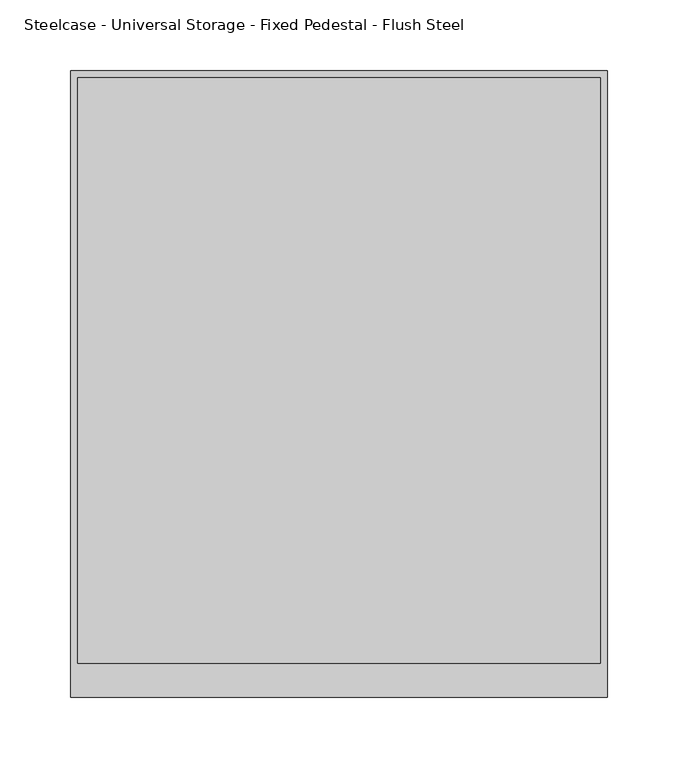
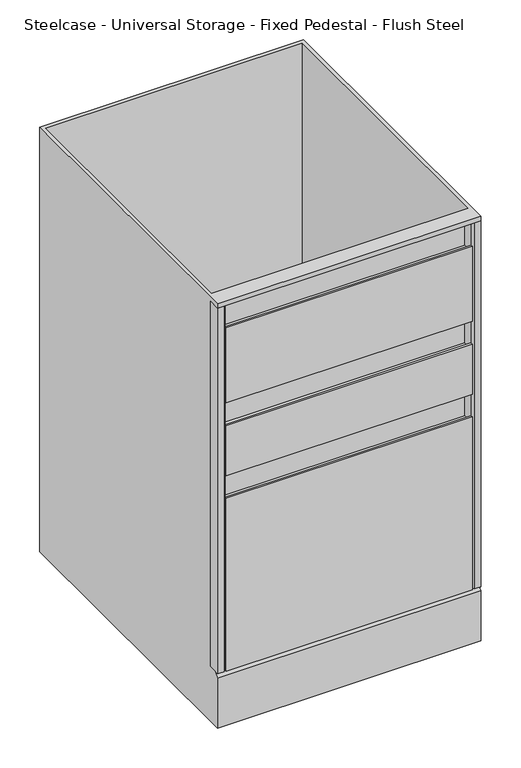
"""IFC4 building model written with IfcOpenShell, lengths in millimetres: furniture geometry, Steelcase - Universal Storage - Fixed Pedestal - Flush Steel : 2 Box/1 File - 25 1/2H x 17 1/2D."""

import ifcopenshell
import ifcopenshell.guid

model = None  # the IFC model being written
_history = None  # IfcOwnerHistory: only IFC2X3 demands one
_inside = {}  # id of a spatial element -> (the spatial element, [elements in it])
_under = {}  # id of a project, library or spatial element -> (it, [spatial elements below it])
_declared = {}  # id of a project -> (the project, [libraries it declares])
_typed = {}  # id of a type object -> (the type object, [elements of that type])
_made_of = {}  # id of a material, layer set ... -> (it, [elements and type objects made of it])


def new_model(schema):
    """Start an empty IFC model of exactly this schema.

    Asked for "IFC4X3", IfcOpenShell would pick the latest addendum, in which some entities
    have other attributes; the version numbers below select the first issue.
    IFC2X3 requires an IfcOwnerHistory on every rooted entity: one is made here for all.
    """
    global model, _history
    if schema == "IFC4X3":
        model = ifcopenshell.file(schema_version=(4, 3, 0, 0))
    else:
        model = ifcopenshell.file(schema=schema)
    _inside.clear()
    _under.clear()
    _declared.clear()
    _typed.clear()
    _made_of.clear()
    _history = None
    if model.schema == "IFC2X3":
        org = make("IfcOrganization", Name="unknown")
        user = make(
            "IfcPersonAndOrganization",
            ThePerson=make("IfcPerson", FamilyName="unknown"),
            TheOrganization=org,
        )
        app = make(
            "IfcApplication",
            ApplicationDeveloper=org,
            Version="unknown",
            ApplicationFullName="unknown",
            ApplicationIdentifier="unknown",
        )
        _history = make(
            "IfcOwnerHistory",
            OwningUser=user,
            OwningApplication=app,
            ChangeAction="ADDED",
            CreationDate=0,
        )
    return model


def make(cls, **values):
    """One entity of the class cls with the attributes given. An attribute that is None is left unset."""
    return model.create_entity(
        cls, **{name: value for name, value in values.items() if value is not None}
    )


def rooted(cls, **values):
    """An entity with a GlobalId (a new one), such as an element, a storey or a relation."""
    return make(cls, GlobalId=ifcopenshell.guid.new(), OwnerHistory=_history, **values)


def si_unit(unit_type, name, prefix=None):
    """IfcSIUnit, for example si_unit("LENGTHUNIT", "METRE", prefix="MILLI")."""
    return make("IfcSIUnit", UnitType=unit_type, Prefix=prefix, Name=name)


def assignment(units):
    """IfcUnitAssignment: the units of a project."""
    return None if units is None else make("IfcUnitAssignment", Units=units)


def point(xyz):
    """IfcCartesianPoint."""
    return None if xyz is None else make("IfcCartesianPoint", Coordinates=xyz)


def direction(xyz):
    """IfcDirection."""
    return None if xyz is None else make("IfcDirection", DirectionRatios=xyz)


def frame(location, z_axis=None, x_axis=None):
    """IfcAxis2Placement3D, a coordinate frame: its origin and axes. An axis left out is left unset."""
    return make(
        "IfcAxis2Placement3D",
        Location=point(location),
        Axis=direction(z_axis),
        RefDirection=direction(x_axis),
    )


def origin():
    """The frame at (0, 0, 0) with its axes left unset."""
    return frame((0.0, 0.0, 0.0))


def place(relative_to, where):
    """IfcLocalPlacement: puts the frame where relative to a parent placement (None: the world)."""
    return make(
        "IfcLocalPlacement", PlacementRelTo=relative_to, RelativePlacement=where
    )


def context(
    kind, dimensions, precision=None, world=None, true_north=None, identifier=None
):
    """IfcGeometricRepresentationContext, for example the 3D "Model" context."""
    return make(
        "IfcGeometricRepresentationContext",
        ContextIdentifier=identifier,
        ContextType=kind,
        CoordinateSpaceDimension=dimensions,
        Precision=precision,
        WorldCoordinateSystem=world,
        TrueNorth=true_north,
    )


def project(units=None, contexts=None):
    """IfcProject with its units and contexts."""
    return rooted(
        "IfcProject",
        Name="project",
        RepresentationContexts=contexts,
        UnitsInContext=assignment(units),
    )


def spatial(cls, under=None, at=None, **own):
    """A site, building, storey or space (cls), placed at a placement, below another one or the project."""
    s = rooted(cls, ObjectPlacement=at, **own)
    if under is not None:
        _under.setdefault(under.id(), (under, []))[1].append(s)
    return s


def polyline(points):
    """IfcPolyline through the points."""
    return make("IfcPolyline", Points=[point(p) for p in points])


def outline(outer, holes=None, kind="AREA"):
    """IfcArbitraryClosedProfileDef: a profile drawn as a closed curve; with holes, ...WithVoids."""
    if holes is None:
        return make("IfcArbitraryClosedProfileDef", ProfileType=kind, OuterCurve=outer)
    return make(
        "IfcArbitraryProfileDefWithVoids",
        ProfileType=kind,
        OuterCurve=outer,
        InnerCurves=holes,
    )


def extrude(swept, where, along, depth):
    """IfcExtrudedAreaSolid: the profile swept, set in the frame where, extruded along a direction by depth."""
    return make(
        "IfcExtrudedAreaSolid",
        SweptArea=swept,
        Position=where,
        ExtrudedDirection=direction(along),
        Depth=depth,
    )


def faces_of(points, faces, orient=None, outer=None):
    """IfcFace entities. A face is a list of loops; a loop is a list of indices into points, from 0.

    orient and outer hold one flag for each loop. By default every Orientation is true, the
    first loop of a face is its IfcFaceOuterBound and the others are IfcFaceBound.
    """
    made = []
    for i, loops in enumerate(faces):
        bounds = []
        for j, loop in enumerate(loops):
            is_outer = j == 0 if outer is None else outer[i][j]
            bounds.append(
                make(
                    "IfcFaceOuterBound" if is_outer else "IfcFaceBound",
                    Bound=make("IfcPolyLoop", Polygon=[points[k] for k in loop]),
                    Orientation=True if orient is None else orient[i][j],
                )
            )
        made.append(make("IfcFace", Bounds=bounds))
    return made


def faceted_brep(points, faces, orient=None, outer=None, voids=None):
    """IfcFacetedBrep: a solid bounded by flat faces; with voids (closed shells), ...WithVoids."""
    shared = [point(p) for p in points]
    hull = make("IfcClosedShell", CfsFaces=faces_of(shared, faces, orient, outer))
    if voids is None:
        return make("IfcFacetedBrep", Outer=hull)
    return make(
        "IfcFacetedBrepWithVoids",
        Outer=hull,
        Voids=[
            make(cls, CfsFaces=faces_of(shared, fs, o, b)) for cls, fs, o, b in voids
        ],
    )


def shape(context_of_items, identifier, shape_type, items):
    """IfcShapeRepresentation: the items that make up one representation, for example the "Body"."""
    return make(
        "IfcShapeRepresentation",
        ContextOfItems=context_of_items,
        RepresentationIdentifier=identifier,
        RepresentationType=shape_type,
        Items=items,
    )


def source(mapping_origin, context_of_items, identifier, shape_type, items):
    """IfcRepresentationMap: a shape defined once, which mapped items show again and again."""
    return make(
        "IfcRepresentationMap",
        MappingOrigin=mapping_origin,
        MappedRepresentation=shape(context_of_items, identifier, shape_type, items),
    )


def transform(
    local_origin,
    x_axis=None,
    y_axis=None,
    z_axis=None,
    scale=None,
    scale2=None,
    scale3=None,
    uniform=True,
):
    """IfcCartesianTransformationOperator3D, or its non-uniform kind. x_axis, y_axis, z_axis: its Axis1, 2, 3."""
    if uniform:
        return make(
            "IfcCartesianTransformationOperator3D",
            Axis1=direction(x_axis),
            Axis2=direction(y_axis),
            LocalOrigin=point(local_origin),
            Scale=scale,
            Axis3=direction(z_axis),
        )
    return make(
        "IfcCartesianTransformationOperator3DnonUniform",
        Axis1=direction(x_axis),
        Axis2=direction(y_axis),
        LocalOrigin=point(local_origin),
        Scale=scale,
        Axis3=direction(z_axis),
        Scale2=scale2,
        Scale3=scale3,
    )


def mapped(mapping_source, mapping_target):
    """IfcMappedItem: shows the shape of a source again, moved by a transform."""
    return make(
        "IfcMappedItem", MappingSource=mapping_source, MappingTarget=mapping_target
    )


def made_of(thing, what):
    """Note that an element or type object is made of a material, layer set ...; save() writes the relation."""
    if what is not None:
        _made_of.setdefault(what.id(), (what, []))[1].append(thing)
    return thing


def element(
    cls,
    number,
    at=None,
    inside=None,
    cuts=None,
    type_object=None,
    material=None,
    context=None,
    identifier="Body",
    shape_type=None,
    held_by="IfcProductDefinitionShape",
    body=None,
    shapes=None,
    **own,
):
    """One element of the class cls, such as IfcWall. Its Tag is "e" and its number.

    at: its placement. inside: the storey or other place that contains it. cuts: it is an
    opening in that element (IfcRelVoidsElement). A single representation is given by context,
    identifier, shape_type and body (its items); several are given by shapes. held_by: the class
    of the entity that holds the representations. save() writes the other relations.
    """
    e = rooted(cls, Tag="e%d" % number, ObjectPlacement=at, **own)
    if body is not None:
        shapes = [shape(context, identifier, shape_type, body)]
    if shapes is not None:
        e.Representation = make(held_by, Representations=shapes)
    if inside is not None:
        _inside.setdefault(inside.id(), (inside, []))[1].append(e)
    if cuts is not None:
        rooted(
            "IfcRelVoidsElement", RelatingBuildingElement=cuts, RelatedOpeningElement=e
        )
    if type_object is not None:
        _typed.setdefault(type_object.id(), (type_object, []))[1].append(e)
    return made_of(e, material)


def aggregate(whole, parts):
    """IfcRelAggregates: a whole, such as a stair, and the parts it consists of."""
    return rooted("IfcRelAggregates", RelatingObject=whole, RelatedObjects=parts)


def save(model, path):
    """Write the relations noted so far, then the file.

    IfcRelAggregates (storeys below a building ...), IfcRelContainedInSpatialStructure (elements
    in a storey), IfcRelDefinesByType, IfcRelAssociatesMaterial and IfcRelDeclares: one each for
    every whole, place, type object, material and project.
    """
    for whole, parts in _under.values():
        aggregate(whole, parts)
    for where, things in _inside.values():
        rooted(
            "IfcRelContainedInSpatialStructure",
            RelatedElements=things,
            RelatingStructure=where,
        )
    for kind, things in _typed.values():
        rooted("IfcRelDefinesByType", RelatedObjects=things, RelatingType=kind)
    for what, things in _made_of.values():
        rooted("IfcRelAssociatesMaterial", RelatedObjects=things, RelatingMaterial=what)
    for by, libraries in _declared.values():
        rooted("IfcRelDeclares", RelatingContext=by, RelatedDefinitions=libraries)
    model.write(path)


def steelcase_universal_storage_fixed_pedestal_flush_steel_39a940be(model_context):
    return source(origin(), model_context, "Body", "SolidModel", [
        extrude(outline(polyline([(368.3000121, 0.0), (12.7000004, 0.0), (12.7000004, 3.1750001), (368.3000121, 3.1750001), (368.3000121, 0.0)])), frame((0.0, 0.0, 492.1250121), z_axis=(0.0, 0.0, 1.0), x_axis=(1.0, 0.0, 0.0)), (0.0, 0.0, 1.0), 114.2999637),
        extrude(outline(polyline([(368.3000121, 0.0), (12.7000004, 0.0), (12.7000004, 3.1750001), (368.3000121, 3.1750001), (368.3000121, 0.0)])), frame((0.0, 0.0, 381.0000363), z_axis=(0.0, 0.0, 1.0), x_axis=(1.0, 0.0, 0.0)), (0.0, 0.0, 1.0), 76.0729758),
        extrude(outline(polyline([(368.3000121, 3.1750001), (12.7000004, 3.1750001), (12.7000004, 19.0495469), (368.3000121, 19.0495469), (368.3000121, 3.1750001)])), frame((0.0, 0.0, 82.550003), z_axis=(0.0, 0.0, 1.0), x_axis=(1.0, 0.0, 0.0)), (0.0, 0.0, 1.0), 254.000003),
        extrude(outline(polyline([(368.3000121, 3.1750001), (12.7000004, 3.1750001), (12.7000004, 19.0495469), (368.3000121, 19.0495469), (368.3000121, 3.1750001)])), frame((0.0, 0.0, 381.0000363), z_axis=(0.0, 0.0, 1.0), x_axis=(1.0, 0.0, 0.0)), (0.0, 0.0, 1.0), 66.6749637),
        extrude(outline(polyline([(368.3000121, 3.1750001), (12.7000004, 3.1750001), (12.7000004, 19.0495469), (368.3000121, 19.0495469), (368.3000121, 3.1750001)])), frame((0.0, 0.0, 492.1250121), z_axis=(0.0, 0.0, 1.0), x_axis=(1.0, 0.0, 0.0)), (0.0, 0.0, 1.0), 104.7749637),
        extrude(outline(polyline([(368.3000121, 0.0), (12.7000004, 0.0), (12.7000004, 3.1750001), (368.3000121, 3.1750001), (368.3000121, 0.0)])), frame((0.0, 0.0, 82.550003), z_axis=(0.0, 0.0, 1.0), x_axis=(1.0, 0.0, 0.0)), (0.0, 0.0, 1.0), 263.5249849),
        faceted_brep([(381.0, 0.0, 641.3500242), (381.0, 19.0495469, 641.3500242), (381.0, 19.0495469, 82.550003), (381.0, 6.350003, 82.550003), (381.0, 0.0, 76.2), (381.0, 0.0, 0.0), (381.0, 444.5, 0.0), (381.0, 444.5, 647.7), (381.0, 0.0, 647.7), (0.0, 0.0, 641.3500242), (0.0, 0.0, 647.7), (0.0, 444.5, 647.7), (0.0, 444.5, 0.0), (0.0, 0.0, 0.0), (0.0, 0.0, 76.2), (0.0, 6.350003, 82.550003), (0.0, 19.0495469, 82.550003), (0.0, 19.0495469, 641.3500242), (5.08, 439.42, 647.7), (375.92, 439.42, 647.7), (375.92, 24.1295469, 647.7), (5.08, 24.1295469, 647.7), (375.92, 439.42, 82.550003), (5.08, 439.42, 82.550003), (5.08, 24.1295469, 82.550003), (375.92, 24.1295469, 82.550003)], [[[0, 1, 2, 3, 4, 5, 6, 7, 8]], [[9, 10, 11, 12, 13, 14, 15, 16, 17]], [[1, 0, 9, 17]], [[2, 1, 17, 16]], [[2, 16, 15, 3]], [[13, 5, 4, 14]], [[6, 5, 13, 12]], [[7, 6, 12, 11]], [[8, 7, 11, 10], [18, 19, 20, 21]], [[0, 8, 10, 9]], [[4, 3, 15, 14]], [[22, 23, 24, 25]], [[23, 22, 19, 18]], [[24, 23, 18, 21]], [[25, 24, 21, 20]], [[22, 25, 20, 19]]]),
        extrude(outline(polyline([(12.7000004, 19.0495469), (12.7000004, 3.1750001), (9.5250003, 0.0), (0.0, 0.0), (0.0, 19.0495469), (12.7000004, 19.0495469)])), frame((0.0, 0.0, 82.550003), z_axis=(0.0, 0.0, 1.0), x_axis=(1.0, 0.0, 0.0)), (0.0, 0.0, 1.0), 558.8000212),
        extrude(outline(polyline([(381.0000125, 19.0495469), (381.0000125, 0.0), (371.4750122, 0.0), (368.3000121, 3.1750001), (368.3000121, 19.0495469), (381.0000125, 19.0495469)])), frame((0.0, 0.0, 82.550003), z_axis=(0.0, 0.0, 1.0), x_axis=(1.0, 0.0, 0.0)), (0.0, 0.0, 1.0), 558.8000212),
    ])


if __name__ == "__main__":
    model = new_model("IFC4")
    model_context = context("Model", 3, world=origin())
    ifc_project = project(units=[si_unit("LENGTHUNIT", "METRE", prefix="MILLI")], contexts=[model_context])
    site = spatial("IfcSite", under=ifc_project)
    building = spatial("IfcBuilding", under=site)
    placement = place(None, origin())
    steelcase_universal_storage_fixed_pedestal_flush_steel_shape = steelcase_universal_storage_fixed_pedestal_flush_steel_39a940be(model_context)
    element("IfcFurniture", 1, ObjectType="Steelcase - Universal Storage - Fixed Pedestal - Flush Steel : 2 Box/1 File - 25 1/2H x 17 1/2D", at=placement, inside=building, context=model_context, shape_type="MappedRepresentation", body=[
        mapped(steelcase_universal_storage_fixed_pedestal_flush_steel_shape, transform((0.0, 0.0, 0.0), x_axis=(1.0, 0.0, 0.0), y_axis=(0.0, 1.0, 0.0), z_axis=(0.0, 0.0, 1.0))),
    ])
    save(model, "model.ifc")
